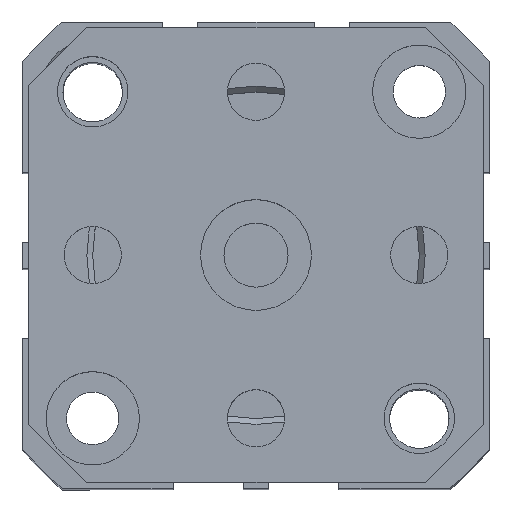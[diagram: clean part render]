
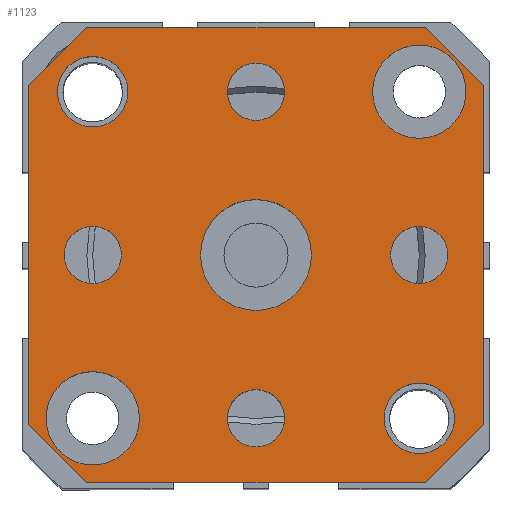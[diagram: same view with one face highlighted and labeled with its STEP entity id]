
A CAD part, top view. The second image highlights one B-rep face of the part: STEP entity #1123.
In plain terms, the highlighted planar face has unit normal (0, 0, 1).
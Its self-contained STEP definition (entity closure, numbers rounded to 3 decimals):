
#425=CARTESIAN_POINT('',(-12.524,-11.716,85.2));
#426=VERTEX_POINT('',#425);
#427=CARTESIAN_POINT('',(-16.524,-11.716,85.2));
#428=DIRECTION('',(0.0,0.0,-1.0));
#429=DIRECTION('',(1.0,0.0,0.0));
#430=AXIS2_PLACEMENT_3D('',#427,#428,#429);
#431=CIRCLE('',#430,4.0);
#432=EDGE_CURVE('',#426,#426,#431,.T.);
#527=CARTESIAN_POINT('',(15.476,16.284,85.2));
#528=VERTEX_POINT('',#527);
#529=CARTESIAN_POINT('',(11.476,16.284,85.2));
#530=DIRECTION('',(0.0,0.0,-1.0));
#531=DIRECTION('',(1.0,0.0,0.0));
#532=AXIS2_PLACEMENT_3D('',#529,#530,#531);
#533=CIRCLE('',#532,4.0);
#534=EDGE_CURVE('',#528,#528,#533,.T.);
#612=CARTESIAN_POINT('',(13.934,2.284,85.2));
#613=VERTEX_POINT('',#612);
#614=CARTESIAN_POINT('',(11.476,2.284,85.2));
#615=DIRECTION('',(0.0,0.0,-1.0));
#616=DIRECTION('',(1.0,0.0,0.0));
#617=AXIS2_PLACEMENT_3D('',#614,#615,#616);
#618=CIRCLE('',#617,2.459);
#619=EDGE_CURVE('',#613,#613,#618,.T.);
#653=CARTESIAN_POINT('',(-0.066,-11.716,85.2));
#654=VERTEX_POINT('',#653);
#655=CARTESIAN_POINT('',(-2.524,-11.716,85.2));
#656=DIRECTION('',(0.0,0.0,-1.0));
#657=DIRECTION('',(1.0,0.0,0.0));
#658=AXIS2_PLACEMENT_3D('',#655,#656,#657);
#659=CIRCLE('',#658,2.459);
#660=EDGE_CURVE('',#654,#654,#659,.T.);
#694=CARTESIAN_POINT('',(-14.066,2.284,85.2));
#695=VERTEX_POINT('',#694);
#696=CARTESIAN_POINT('',(-16.524,2.284,85.2));
#697=DIRECTION('',(0.0,0.0,-1.0));
#698=DIRECTION('',(1.0,0.0,0.0));
#699=AXIS2_PLACEMENT_3D('',#696,#697,#698);
#700=CIRCLE('',#699,2.459);
#701=EDGE_CURVE('',#695,#695,#700,.T.);
#735=CARTESIAN_POINT('',(-0.066,16.284,85.2));
#736=VERTEX_POINT('',#735);
#737=CARTESIAN_POINT('',(-2.524,16.284,85.2));
#738=DIRECTION('',(0.0,0.0,-1.0));
#739=DIRECTION('',(1.0,0.0,0.0));
#740=AXIS2_PLACEMENT_3D('',#737,#738,#739);
#741=CIRCLE('',#740,2.459);
#742=EDGE_CURVE('',#736,#736,#741,.T.);
#801=CARTESIAN_POINT('',(2.226,2.284,85.2));
#802=VERTEX_POINT('',#801);
#803=CARTESIAN_POINT('',(-2.524,2.284,85.2));
#804=DIRECTION('',(0.0,0.0,-1.0));
#805=DIRECTION('',(1.0,0.0,0.0));
#806=AXIS2_PLACEMENT_3D('',#803,#804,#805);
#807=CIRCLE('',#806,4.75);
#808=EDGE_CURVE('',#802,#802,#807,.T.);
#854=CARTESIAN_POINT('',(14.495,-11.716,85.2));
#855=VERTEX_POINT('',#854);
#856=CARTESIAN_POINT('',(11.476,-11.716,85.2));
#857=DIRECTION('',(0.0,0.0,-1.0));
#858=DIRECTION('',(-1.0,0.0,0.0));
#859=AXIS2_PLACEMENT_3D('',#856,#857,#858);
#860=CIRCLE('',#859,3.019);
#861=EDGE_CURVE('',#855,#855,#860,.T.);
#874=CARTESIAN_POINT('',(-13.505,16.284,85.2));
#875=VERTEX_POINT('',#874);
#876=CARTESIAN_POINT('',(-16.524,16.284,85.2));
#877=DIRECTION('',(0.0,0.0,-1.0));
#878=DIRECTION('',(-1.0,0.0,0.0));
#879=AXIS2_PLACEMENT_3D('',#876,#877,#878);
#880=CIRCLE('',#879,3.019);
#881=EDGE_CURVE('',#875,#875,#880,.T.);
#894=CARTESIAN_POINT('',(-17.024,21.784,85.2));
#895=VERTEX_POINT('',#894);
#896=CARTESIAN_POINT('',(11.976,21.784,85.2));
#897=VERTEX_POINT('',#896);
#898=CARTESIAN_POINT('',(-17.024,21.784,85.2));
#899=DIRECTION('',(1.0,0.0,0.0));
#900=VECTOR('',#899,29.);
#901=LINE('',#898,#900);
#902=EDGE_CURVE('',#895,#897,#901,.T.);
#925=CARTESIAN_POINT('',(16.976,16.784,85.2));
#926=VERTEX_POINT('',#925);
#927=CARTESIAN_POINT('',(11.976,21.784,85.2));
#928=DIRECTION('',(0.707,-0.707,0.0));
#929=VECTOR('',#928,7.071);
#930=LINE('',#927,#929);
#931=EDGE_CURVE('',#897,#926,#930,.T.);
#949=CARTESIAN_POINT('',(16.976,-12.216,85.2));
#950=VERTEX_POINT('',#949);
#951=CARTESIAN_POINT('',(16.976,16.784,85.2));
#952=DIRECTION('',(0.0,-1.0,0.0));
#953=VECTOR('',#952,29.);
#954=LINE('',#951,#953);
#955=EDGE_CURVE('',#926,#950,#954,.T.);
#973=CARTESIAN_POINT('',(11.976,-17.216,85.2));
#974=VERTEX_POINT('',#973);
#975=CARTESIAN_POINT('',(16.976,-12.216,85.2));
#976=DIRECTION('',(-0.707,-0.707,0.0));
#977=VECTOR('',#976,7.071);
#978=LINE('',#975,#977);
#979=EDGE_CURVE('',#950,#974,#978,.T.);
#997=CARTESIAN_POINT('',(-17.024,-17.216,85.2));
#998=VERTEX_POINT('',#997);
#999=CARTESIAN_POINT('',(11.976,-17.216,85.2));
#1000=DIRECTION('',(-1.0,0.0,0.0));
#1001=VECTOR('',#1000,29.);
#1002=LINE('',#999,#1001);
#1003=EDGE_CURVE('',#974,#998,#1002,.T.);
#1021=CARTESIAN_POINT('',(-22.024,-12.216,85.2));
#1022=VERTEX_POINT('',#1021);
#1023=CARTESIAN_POINT('',(-17.024,-17.216,85.2));
#1024=DIRECTION('',(-0.707,0.707,0.0));
#1025=VECTOR('',#1024,7.071);
#1026=LINE('',#1023,#1025);
#1027=EDGE_CURVE('',#998,#1022,#1026,.T.);
#1045=CARTESIAN_POINT('',(-22.024,16.784,85.2));
#1046=VERTEX_POINT('',#1045);
#1047=CARTESIAN_POINT('',(-22.024,-12.216,85.2));
#1048=DIRECTION('',(0.0,1.0,0.0));
#1049=VECTOR('',#1048,29.);
#1050=LINE('',#1047,#1049);
#1051=EDGE_CURVE('',#1022,#1046,#1050,.T.);
#1069=CARTESIAN_POINT('',(-22.024,16.784,85.2));
#1070=DIRECTION('',(0.707,0.707,0.0));
#1071=VECTOR('',#1070,7.071);
#1072=LINE('',#1069,#1071);
#1073=EDGE_CURVE('',#1046,#895,#1072,.T.);
#1081=CARTESIAN_POINT('',(-2.524,2.284,85.2));
#1082=DIRECTION('',(0.0,0.0,1.0));
#1083=DIRECTION('',(1.0,0.0,0.0));
#1084=AXIS2_PLACEMENT_3D('',#1081,#1082,#1083);
#1085=PLANE('',#1084);
#1086=ORIENTED_EDGE('',*,*,#902,.F.);
#1087=ORIENTED_EDGE('',*,*,#1073,.F.);
#1088=ORIENTED_EDGE('',*,*,#1051,.F.);
#1089=ORIENTED_EDGE('',*,*,#1027,.F.);
#1090=ORIENTED_EDGE('',*,*,#1003,.F.);
#1091=ORIENTED_EDGE('',*,*,#979,.F.);
#1092=ORIENTED_EDGE('',*,*,#955,.F.);
#1093=ORIENTED_EDGE('',*,*,#931,.F.);
#1094=EDGE_LOOP('',(#1086,#1087,#1088,#1089,#1090,#1091,#1092,#1093));
#1095=FACE_OUTER_BOUND('',#1094,.T.);
#1096=ORIENTED_EDGE('',*,*,#432,.T.);
#1097=EDGE_LOOP('',(#1096));
#1098=FACE_BOUND('',#1097,.T.);
#1099=ORIENTED_EDGE('',*,*,#534,.T.);
#1100=EDGE_LOOP('',(#1099));
#1101=FACE_BOUND('',#1100,.T.);
#1102=ORIENTED_EDGE('',*,*,#619,.T.);
#1103=EDGE_LOOP('',(#1102));
#1104=FACE_BOUND('',#1103,.T.);
#1105=ORIENTED_EDGE('',*,*,#660,.T.);
#1106=EDGE_LOOP('',(#1105));
#1107=FACE_BOUND('',#1106,.T.);
#1108=ORIENTED_EDGE('',*,*,#701,.T.);
#1109=EDGE_LOOP('',(#1108));
#1110=FACE_BOUND('',#1109,.T.);
#1111=ORIENTED_EDGE('',*,*,#742,.T.);
#1112=EDGE_LOOP('',(#1111));
#1113=FACE_BOUND('',#1112,.T.);
#1114=ORIENTED_EDGE('',*,*,#808,.T.);
#1115=EDGE_LOOP('',(#1114));
#1116=FACE_BOUND('',#1115,.T.);
#1117=ORIENTED_EDGE('',*,*,#861,.T.);
#1118=EDGE_LOOP('',(#1117));
#1119=FACE_BOUND('',#1118,.T.);
#1120=ORIENTED_EDGE('',*,*,#881,.T.);
#1121=EDGE_LOOP('',(#1120));
#1122=FACE_BOUND('',#1121,.T.);
#1123=ADVANCED_FACE('',(#1095,#1098,#1101,#1104,#1107,#1110,#1113,#1116,#1119,#1122),#1085,.T.);
